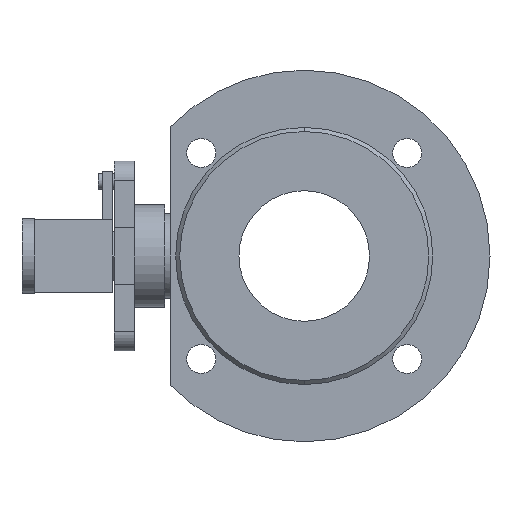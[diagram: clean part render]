
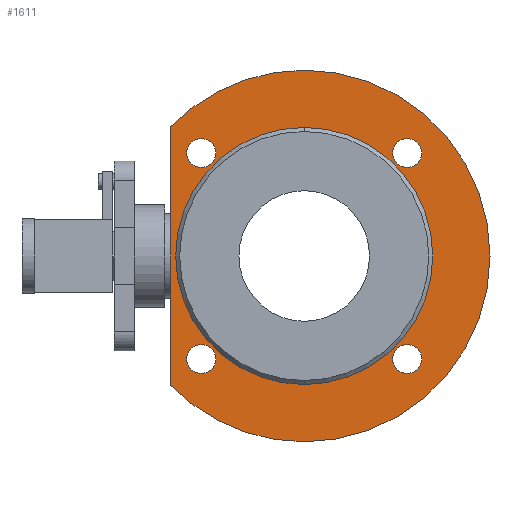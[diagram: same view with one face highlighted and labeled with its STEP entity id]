
A CAD part, left-side view. The second image highlights one B-rep face of the part: STEP entity #1611.
In plain terms, the highlighted planar face has unit normal (-1, 0, 0).
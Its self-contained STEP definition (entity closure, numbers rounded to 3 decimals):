
#10 = DIRECTION ( 'NONE',  ( -1., 0., 0. ) ) ;
#14 = DIRECTION ( 'NONE',  ( 0., 0., 1. ) ) ;
#44 = AXIS2_PLACEMENT_3D ( 'NONE', #2428, #537, #2736 ) ;
#48 = VERTEX_POINT ( 'NONE', #354 ) ;
#122 = CARTESIAN_POINT ( 'NONE',  ( -47., -51.265, 51.265 ) ) ;
#152 = AXIS2_PLACEMENT_3D ( 'NONE', #2544, #663, #2847 ) ;
#161 = EDGE_CURVE ( 'NONE', #466, #3555, #2506, .T. ) ;
#172 = DIRECTION ( 'NONE',  ( -1., 0., 0. ) ) ;
#184 = CIRCLE ( 'NONE', #758, 7.2 ) ;
#187 = CARTESIAN_POINT ( 'NONE',  ( -47., -51.265, 58.465 ) ) ;
#218 = AXIS2_PLACEMENT_3D ( 'NONE', #2699, #3326, #1468 ) ;
#239 = CIRCLE ( 'NONE', #3655, 7.2 ) ;
#315 = CARTESIAN_POINT ( 'NONE',  ( -47., 51.265, 51.265 ) ) ;
#354 = CARTESIAN_POINT ( 'NONE',  ( -47., 0., -92.5 ) ) ;
#387 = CIRCLE ( 'NONE', #1395, 92.5 ) ;
#398 = CARTESIAN_POINT ( 'NONE',  ( -47., 0., -64. ) ) ;
#419 = ORIENTED_EDGE ( 'NONE', *, *, #869, .F. ) ;
#434 = VERTEX_POINT ( 'NONE', #539 ) ;
#443 = DIRECTION ( 'NONE',  ( 0., -1., 0. ) ) ;
#466 = VERTEX_POINT ( 'NONE', #2135 ) ;
#523 = VERTEX_POINT ( 'NONE', #571 ) ;
#537 = DIRECTION ( 'NONE',  ( -1., 0., 0. ) ) ;
#539 = CARTESIAN_POINT ( 'NONE',  ( -47., -51.265, 44.065 ) ) ;
#552 = EDGE_LOOP ( 'NONE', ( #1150, #419 ) ) ;
#556 = FACE_OUTER_BOUND ( 'NONE', #1974, .T. ) ;
#570 = EDGE_CURVE ( 'NONE', #434, #1079, #184, .T. ) ;
#571 = CARTESIAN_POINT ( 'NONE',  ( -47., 66.5, 64.296 ) ) ;
#599 = ORIENTED_EDGE ( 'NONE', *, *, #716, .F. ) ;
#638 = DIRECTION ( 'NONE',  ( 0., 0., 1. ) ) ;
#658 = VERTEX_POINT ( 'NONE', #937 ) ;
#663 = DIRECTION ( 'NONE',  ( -1., 0., 0. ) ) ;
#716 = EDGE_CURVE ( 'NONE', #1172, #3331, #965, .T. ) ;
#718 = AXIS2_PLACEMENT_3D ( 'NONE', #315, #2523, #638 ) ;
#732 = ORIENTED_EDGE ( 'NONE', *, *, #161, .F. ) ;
#758 = AXIS2_PLACEMENT_3D ( 'NONE', #3412, #1567, #3706 ) ;
#769 = DIRECTION ( 'NONE',  ( -1., 0., 0. ) ) ;
#795 = CIRCLE ( 'NONE', #718, 7.2 ) ;
#809 = ORIENTED_EDGE ( 'NONE', *, *, #3634, .F. ) ;
#859 = AXIS2_PLACEMENT_3D ( 'NONE', #122, #2331, #443 ) ;
#863 = CARTESIAN_POINT ( 'NONE',  ( -47., 51.265, 44.065 ) ) ;
#869 = EDGE_CURVE ( 'NONE', #3063, #3242, #2962, .T. ) ;
#916 = AXIS2_PLACEMENT_3D ( 'NONE', #2955, #1104, #3282 ) ;
#925 = DIRECTION ( 'NONE',  ( -1., 0., 0. ) ) ;
#937 = CARTESIAN_POINT ( 'NONE',  ( -47., 66.5, -64.296 ) ) ;
#965 = CIRCLE ( 'NONE', #152, 7.2 ) ;
#970 = ORIENTED_EDGE ( 'NONE', *, *, #570, .F. ) ;
#1017 = EDGE_CURVE ( 'NONE', #3555, #466, #2573, .T. ) ;
#1052 = EDGE_CURVE ( 'NONE', #3331, #1172, #3111, .T. ) ;
#1079 = VERTEX_POINT ( 'NONE', #187 ) ;
#1104 = DIRECTION ( 'NONE',  ( -1., 0., 0. ) ) ;
#1150 = ORIENTED_EDGE ( 'NONE', *, *, #3218, .F. ) ;
#1172 = VERTEX_POINT ( 'NONE', #2205 ) ;
#1184 = EDGE_CURVE ( 'NONE', #658, #48, #3664, .T. ) ;
#1187 = LINE ( 'NONE', #2619, #1913 ) ;
#1285 = CARTESIAN_POINT ( 'NONE',  ( -47., 51.265, 58.465 ) ) ;
#1377 = VERTEX_POINT ( 'NONE', #2626 ) ;
#1391 = EDGE_LOOP ( 'NONE', ( #2646, #970 ) ) ;
#1395 = AXIS2_PLACEMENT_3D ( 'NONE', #1908, #10, #2218 ) ;
#1408 = FACE_BOUND ( 'NONE', #3024, .T. ) ;
#1468 = DIRECTION ( 'NONE',  ( 0., 0., -1. ) ) ;
#1485 = DIRECTION ( 'NONE',  ( 0., 0., 1. ) ) ;
#1553 = CARTESIAN_POINT ( 'NONE',  ( -47., 51.265, -51.265 ) ) ;
#1567 = DIRECTION ( 'NONE',  ( -1., 0., 0. ) ) ;
#1611 = ADVANCED_FACE ( 'NONE', ( #3352, #3056, #3958, #2221, #1408, #556 ), #1776, .F. ) ;
#1623 = VERTEX_POINT ( 'NONE', #3925 ) ;
#1662 = EDGE_CURVE ( 'NONE', #1079, #434, #3469, .T. ) ;
#1776 = PLANE ( 'NONE',  #218 ) ;
#1783 = AXIS2_PLACEMENT_3D ( 'NONE', #2053, #172, #2370 ) ;
#1847 = CARTESIAN_POINT ( 'NONE',  ( -47., 0., 92.5 ) ) ;
#1868 = DIRECTION ( 'NONE',  ( 0., 1., 0. ) ) ;
#1908 = CARTESIAN_POINT ( 'NONE',  ( -47., 0., 0. ) ) ;
#1912 = DIRECTION ( 'NONE',  ( -1., 0., 0. ) ) ;
#1913 = VECTOR ( 'NONE', #3837, 1000. ) ;
#1974 = EDGE_LOOP ( 'NONE', ( #3281, #2764, #2704, #2548 ) ) ;
#2053 = CARTESIAN_POINT ( 'NONE',  ( -47., -51.265, -51.265 ) ) ;
#2109 = DIRECTION ( 'NONE',  ( -1., 0., 0. ) ) ;
#2124 = EDGE_CURVE ( 'NONE', #3082, #523, #3052, .T. ) ;
#2135 = CARTESIAN_POINT ( 'NONE',  ( -47., 0., 64. ) ) ;
#2203 = EDGE_LOOP ( 'NONE', ( #599, #2463 ) ) ;
#2205 = CARTESIAN_POINT ( 'NONE',  ( -47., -51.265, -44.065 ) ) ;
#2218 = DIRECTION ( 'NONE',  ( 0., 0., 1. ) ) ;
#2221 = FACE_BOUND ( 'NONE', #552, .T. ) ;
#2293 = ORIENTED_EDGE ( 'NONE', *, *, #3134, .F. ) ;
#2331 = DIRECTION ( 'NONE',  ( -1., 0., 0. ) ) ;
#2370 = DIRECTION ( 'NONE',  ( 0., 0., -1. ) ) ;
#2396 = EDGE_CURVE ( 'NONE', #48, #3082, #387, .T. ) ;
#2428 = CARTESIAN_POINT ( 'NONE',  ( -47., 0., 0. ) ) ;
#2463 = ORIENTED_EDGE ( 'NONE', *, *, #1052, .F. ) ;
#2506 = CIRCLE ( 'NONE', #3010, 64. ) ;
#2523 = DIRECTION ( 'NONE',  ( -1., 0., 0. ) ) ;
#2544 = CARTESIAN_POINT ( 'NONE',  ( -47., -51.265, -51.265 ) ) ;
#2548 = ORIENTED_EDGE ( 'NONE', *, *, #3623, .T. ) ;
#2573 = CIRCLE ( 'NONE', #916, 64. ) ;
#2619 = CARTESIAN_POINT ( 'NONE',  ( -47., 66.5, 0. ) ) ;
#2626 = CARTESIAN_POINT ( 'NONE',  ( -47., 51.265, -44.065 ) ) ;
#2634 = CARTESIAN_POINT ( 'NONE',  ( -47., 51.265, -51.265 ) ) ;
#2646 = ORIENTED_EDGE ( 'NONE', *, *, #1662, .F. ) ;
#2678 = AXIS2_PLACEMENT_3D ( 'NONE', #2789, #925, #3109 ) ;
#2699 = CARTESIAN_POINT ( 'NONE',  ( -47., 92.5, 0. ) ) ;
#2704 = ORIENTED_EDGE ( 'NONE', *, *, #2124, .T. ) ;
#2736 = DIRECTION ( 'NONE',  ( 0., 0., 1. ) ) ;
#2764 = ORIENTED_EDGE ( 'NONE', *, *, #2396, .T. ) ;
#2789 = CARTESIAN_POINT ( 'NONE',  ( -47., 51.265, 51.265 ) ) ;
#2847 = DIRECTION ( 'NONE',  ( 0., 0., -1. ) ) ;
#2945 = DIRECTION ( 'NONE',  ( 0., 1., 0. ) ) ;
#2955 = CARTESIAN_POINT ( 'NONE',  ( -47., 0., 0. ) ) ;
#2962 = CIRCLE ( 'NONE', #2678, 7.2 ) ;
#3010 = AXIS2_PLACEMENT_3D ( 'NONE', #3034, #2109, #1485 ) ;
#3024 = EDGE_LOOP ( 'NONE', ( #3585, #732 ) ) ;
#3034 = CARTESIAN_POINT ( 'NONE',  ( -47., 0., 0. ) ) ;
#3052 = CIRCLE ( 'NONE', #44, 92.5 ) ;
#3056 = FACE_BOUND ( 'NONE', #2203, .T. ) ;
#3063 = VERTEX_POINT ( 'NONE', #863 ) ;
#3082 = VERTEX_POINT ( 'NONE', #1847 ) ;
#3109 = DIRECTION ( 'NONE',  ( 0., 0., 1. ) ) ;
#3111 = CIRCLE ( 'NONE', #1783, 7.2 ) ;
#3134 = EDGE_CURVE ( 'NONE', #1623, #1377, #3287, .T. ) ;
#3218 = EDGE_CURVE ( 'NONE', #3242, #3063, #795, .T. ) ;
#3242 = VERTEX_POINT ( 'NONE', #1285 ) ;
#3281 = ORIENTED_EDGE ( 'NONE', *, *, #1184, .T. ) ;
#3282 = DIRECTION ( 'NONE',  ( 0., 0., 1. ) ) ;
#3287 = CIRCLE ( 'NONE', #3320, 7.2 ) ;
#3320 = AXIS2_PLACEMENT_3D ( 'NONE', #1553, #3691, #1868 ) ;
#3326 = DIRECTION ( 'NONE',  ( 1., 0., 0. ) ) ;
#3331 = VERTEX_POINT ( 'NONE', #3799 ) ;
#3352 = FACE_BOUND ( 'NONE', #1391, .T. ) ;
#3378 = EDGE_LOOP ( 'NONE', ( #809, #2293 ) ) ;
#3412 = CARTESIAN_POINT ( 'NONE',  ( -47., -51.265, 51.265 ) ) ;
#3469 = CIRCLE ( 'NONE', #859, 7.2 ) ;
#3555 = VERTEX_POINT ( 'NONE', #398 ) ;
#3585 = ORIENTED_EDGE ( 'NONE', *, *, #1017, .F. ) ;
#3623 = EDGE_CURVE ( 'NONE', #523, #658, #1187, .T. ) ;
#3634 = EDGE_CURVE ( 'NONE', #1377, #1623, #239, .T. ) ;
#3655 = AXIS2_PLACEMENT_3D ( 'NONE', #2634, #769, #2945 ) ;
#3664 = CIRCLE ( 'NONE', #3819, 92.5 ) ;
#3691 = DIRECTION ( 'NONE',  ( -1., 0., 0. ) ) ;
#3706 = DIRECTION ( 'NONE',  ( 0., -1., 0. ) ) ;
#3746 = CARTESIAN_POINT ( 'NONE',  ( -47., 0., 0. ) ) ;
#3799 = CARTESIAN_POINT ( 'NONE',  ( -47., -51.265, -58.465 ) ) ;
#3819 = AXIS2_PLACEMENT_3D ( 'NONE', #3746, #1912, #14 ) ;
#3837 = DIRECTION ( 'NONE',  ( 0., 0., -1. ) ) ;
#3925 = CARTESIAN_POINT ( 'NONE',  ( -47., 51.265, -58.465 ) ) ;
#3958 = FACE_BOUND ( 'NONE', #3378, .T. ) ;
